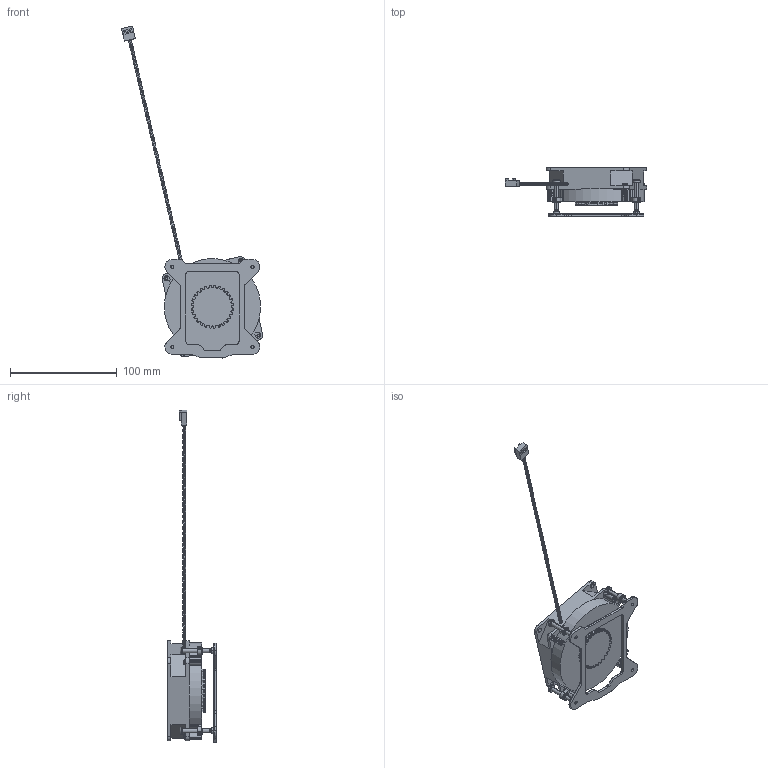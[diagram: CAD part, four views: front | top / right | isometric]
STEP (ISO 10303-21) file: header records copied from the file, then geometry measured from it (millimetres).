
FILE_DESCRIPTION((''),'2;1');
FILE_NAME('RG3119-35B-002_ME_ASM','2022-11-03T',('User'),(''),'PRO/ENGINEER BY PARAMETRIC TECHNOLOGY CORPORATION, 2017170','PRO/ENGINEER BY PARAMETRIC TECHNOLOGY CORPORATION, 2017170','');
FILE_SCHEMA(('CONFIG_CONTROL_DESIGN'));
Products named in the file (16): D90X15_AL_SINK__3; D90_15H_AL_ASSY_ASM_1_ASM; DEAKTOP_SCREW_D7_30_8L_1; E-RING_1; DESKTOP_SCREW_ASSY_ASM_1_ASM; DESKTOP_D90_15H_AL_ASSY_ASM_1_ASM; AD208020HBPA04_3; 4P-PLUGZ__VORTEX__2; FAN_SCREW_T3X10MM_1; LABEL_R30_1_1; AD208020HBPA04_ASM_1_ASM; 850-BP1156_1; MYLER_1; 850-BP1156_ASSY__ASM_1_ASM; RG3119-35B_ASM_1_ASM; RG3119-35B-002_ME_ASM
Assembly tree (21 placements, depth 5):
  RG3119-35B-002_ME_ASM
    RG3119-35B_ASM_1_ASM
      DESKTOP_D90_15H_AL_ASSY_ASM_1_ASM
        D90_15H_AL_ASSY_ASM_1_ASM
          D90X15_AL_SINK__3
        DESKTOP_SCREW_ASSY_ASM_1_ASM  x4
          DEAKTOP_SCREW_D7_30_8L_1
          E-RING_1
      AD208020HBPA04_ASM_1_ASM
        AD208020HBPA04_3
        4P-PLUGZ__VORTEX__2
        FAN_SCREW_T3X10MM_1  x4
        LABEL_R30_1_1
      850-BP1156_ASSY__ASM_1_ASM
        850-BP1156_1
        MYLER_1
Bounding box: 132.18 x 45.8 x 310.86 mm (x, y, z)
Volume: 194405.8 mm3; surface area: 68991.6 mm2
Topology: 18 solids, 18 shells, 2911 faces, 7940 edges, 5144 vertices
Faces by surface type: plane 1744, bspline 561, cylinder 495, extrusion 95, torus 16
Entity records: 116333 total; most frequent: CARTESIAN_POINT 66948, ORIENTED_EDGE 11326, DIRECTION 8147, EDGE_CURVE 5663, VERTEX_POINT 3629, VECTOR 3607, LINE 3512, AXIS2_PLACEMENT_3D 2270
